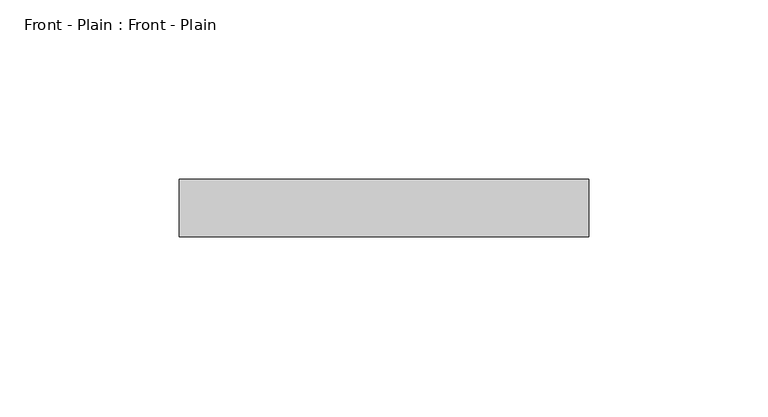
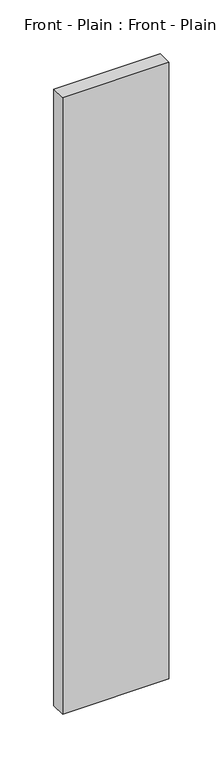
"""IFC4 building model written with IfcOpenShell, lengths in millimetres: furniture geometry, Front - Plain : Front - Plain."""

from ifc_helpers import new_model, si_unit, frame, origin, place, context, project, spatial, polyline, outline, extrude, source, transform, mapped, element, save


def front_plain_front_plain_37046411(model_context):
    return source(origin(), model_context, "Body", "SweptSolid", [
        extrude(outline(polyline([(57.0, -16.0), (-57.0, -16.0), (-57.0, 0.0), (57.0, 0.0), (57.0, -16.0)])), frame((0.0, 0.0, 3.0), z_axis=(0.0, 0.0, 1.0), x_axis=(1.0, 0.0, 0.0)), (0.0, 0.0, 1.0), 698.0),
    ])


if __name__ == "__main__":
    model = new_model("IFC4")
    model_context = context("Model", 3, world=origin())
    ifc_project = project(units=[si_unit("LENGTHUNIT", "METRE", prefix="MILLI")], contexts=[model_context])
    site = spatial("IfcSite", under=ifc_project)
    building = spatial("IfcBuilding", under=site)
    placement = place(None, origin())
    front_plain_front_plain_shape = front_plain_front_plain_37046411(model_context)
    element("IfcFurniture", 1, ObjectType="Front - Plain : Front - Plain", at=placement, inside=building, context=model_context, shape_type="MappedRepresentation", body=[
        mapped(front_plain_front_plain_shape, transform((0.0, 0.0, 0.0), x_axis=(1.0, 0.0, 0.0), y_axis=(0.0, 1.0, 0.0), z_axis=(0.0, 0.0, 1.0))),
    ])
    save(model, "model.ifc")
